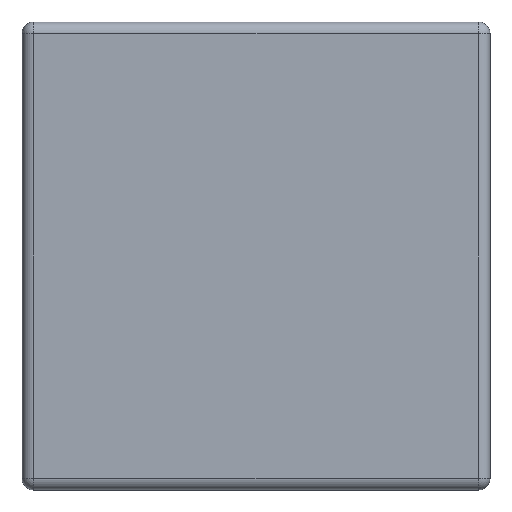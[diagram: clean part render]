
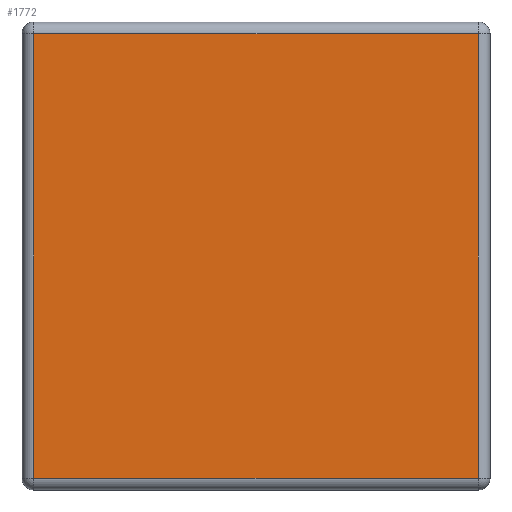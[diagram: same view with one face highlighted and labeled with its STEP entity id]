
A CAD part, front view. The second image highlights one B-rep face of the part: STEP entity #1772.
In plain terms, the highlighted planar face has unit normal (0, -1, 0).
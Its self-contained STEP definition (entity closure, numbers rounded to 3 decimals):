
#114=FACE_OUTER_BOUND('',#223,.T.);
#223=EDGE_LOOP('',(#1299,#1300,#1301,#1302));
#375=LINE('',#2841,#547);
#376=LINE('',#2843,#548);
#377=LINE('',#2845,#549);
#378=LINE('',#2846,#550);
#547=VECTOR('',#2140,1000.);
#548=VECTOR('',#2141,1000.);
#549=VECTOR('',#2142,1000.);
#550=VECTOR('',#2143,1000.);
#823=VERTEX_POINT('',#2839);
#824=VERTEX_POINT('',#2840);
#825=VERTEX_POINT('',#2842);
#826=VERTEX_POINT('',#2844);
#1007=EDGE_CURVE('',#823,#824,#375,.T.);
#1008=EDGE_CURVE('',#824,#825,#376,.T.);
#1009=EDGE_CURVE('',#825,#826,#377,.T.);
#1010=EDGE_CURVE('',#826,#823,#378,.T.);
#1299=ORIENTED_EDGE('',*,*,#1007,.T.);
#1300=ORIENTED_EDGE('',*,*,#1008,.T.);
#1301=ORIENTED_EDGE('',*,*,#1009,.T.);
#1302=ORIENTED_EDGE('',*,*,#1010,.T.);
#1708=PLANE('',#1907);
#1772=ADVANCED_FACE('',(#114),#1708,.F.);
#1907=AXIS2_PLACEMENT_3D('',#2838,#2138,#2139);
#2138=DIRECTION('center_axis',(0.,1.,0.));
#2139=DIRECTION('ref_axis',(0.,0.,1.));
#2140=DIRECTION('',(0.,0.,1.));
#2141=DIRECTION('',(-1.,0.,0.));
#2142=DIRECTION('',(0.,0.,-1.));
#2143=DIRECTION('',(1.,0.,0.));
#2838=CARTESIAN_POINT('Origin',(-20.,0.,20.));
#2839=CARTESIAN_POINT('',(19.,0.,-19.));
#2840=CARTESIAN_POINT('',(19.,0.,19.));
#2841=CARTESIAN_POINT('',(19.,0.,20.));
#2842=CARTESIAN_POINT('',(-19.,0.,19.));
#2843=CARTESIAN_POINT('',(-20.,0.,19.));
#2844=CARTESIAN_POINT('',(-19.,0.,-19.));
#2845=CARTESIAN_POINT('',(-19.,0.,20.));
#2846=CARTESIAN_POINT('',(-20.,0.,-19.));
